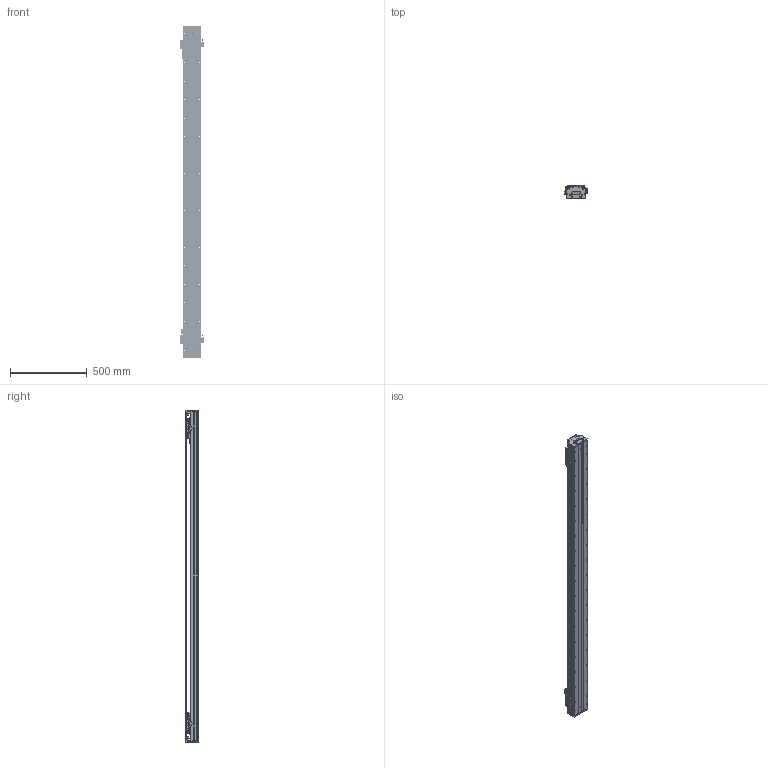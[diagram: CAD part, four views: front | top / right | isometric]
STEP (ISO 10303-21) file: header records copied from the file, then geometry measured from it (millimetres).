
FILE_DESCRIPTION (( 'STEP AP203' ), '1' );
FILE_NAME ('DKW120-2×B15-W060（T1760-L005-0.2）.STEP', '2021-09-29T05:39:04', ( '微软用户' ), ( '微软中国' ), 'SwSTEP 2.0', 'SolidWorks 2018', '' );
FILE_SCHEMA (( 'CONFIG_CONTROL_DESIGN' ));
Length unit declared in the file: millimetre
Products named in the file (26): MSB15TS2FC+U92.7-16.35_16.35N_(0_45.85_0_01G-M4); EE_SX674A; 12160-0000-003-00 DKW120詩湍嶺輸; BKM015-W060-C1-TP-3; DKW-DG-XJ-Z-00 笢潔滅袉砎蝶; 12160-0000-004-00  DKW120詩湍揤輸; B15-W060; DKW-GYP-ZJ-00 笢潔嫖萇覜茼え; DKW120 单轴模组-拉钢带组件; MSB15-DG-U; DKW-KGZ-ZJ-00 中间光电开关支架; BKMA01-W060-TRL280; 06652-0001-001-00 DKW120傷啣; DKW120-B15-T300-DZ-00 菁釱; DKW120-2×B15-W060（T1760-L005-0.2）; RUS嫖掑喜; 06652-0001-004-00 DKW120嶺輸菜輸; DKW-SG-GYP-H-00 嫖萇覜茼え; Ru2; DKW-HXJ-JY-00 遣喳砎蝶; DKW-HYB-JY-A-00 賑輸揤啣A; DKW119-RU-DTJ-00 RU2黍杅芛盓殤; 10940-0001-004-00 120詩湍裔啣; DKW119-HT-C15-00 賑怢啣; 10980-0001-003-00 嫖萇羲壽嘐隅釱; 砎蝶猾沭
Assembly tree (48 placements, depth 3):
  DKW120-2×B15-W060（T1760-L005-0.2）
    DKW120-B15-T300-DZ-00 菁釱
    B15-W060  x2
      DKW-SG-GYP-H-00 嫖萇覜茼え
      DKW-HYB-JY-A-00 賑輸揤啣A
      DKW119-HT-C15-00 賑怢啣
      MSB15TS2FC+U92.7-16.35_16.35N_(0_45.85_0_01G-M4)
      BKM015-W060-C1-TP-3
    MSB15-DG-U  x2
    DKW120 单轴模组-拉钢带组件
      06652-0001-001-00 DKW120傷啣  x2
      06652-0001-004-00 DKW120嶺輸菜輸  x4
      DKW-HXJ-JY-00 遣喳砎蝶  x4
      10940-0001-004-00 120詩湍裔啣
      砎蝶猾沭  x2
      12160-0000-003-00 DKW120詩湍嶺輸  x2
      12160-0000-004-00  DKW120詩湍揤輸  x2
    BKMA01-W060-TRL280
    RUS嫖掑喜
    Ru2  x2
    DKW119-RU-DTJ-00 RU2黍杅芛盓殤  x2
    10980-0001-003-00 嫖萇羲壽嘐隅釱  x2
    EE_SX674A  x5
    DKW-DG-XJ-Z-00 笢潔滅袉砎蝶
    DKW-GYP-ZJ-00 笢潔嫖萇覜茼え
    DKW-KGZ-ZJ-00 中间光电开关支架
Bounding box: 154.09 x 84 x 2156 mm (x, y, z)
Volume: 7657365.4 mm3; surface area: 3041546.9 mm2
Topology: 76 solids, 174 shells, 7052 faces, 19132 edges, 12339 vertices
Faces by surface type: plane 4002, cylinder 1960, cone 556, bspline 534
Entity records: 133886 total; most frequent: CARTESIAN_POINT 47351, ORIENTED_EDGE 17855, DIRECTION 16459, EDGE_CURVE 8968, VERTEX_POINT 5881, AXIS2_PLACEMENT_3D 5526, LINE 5407, VECTOR 5407
